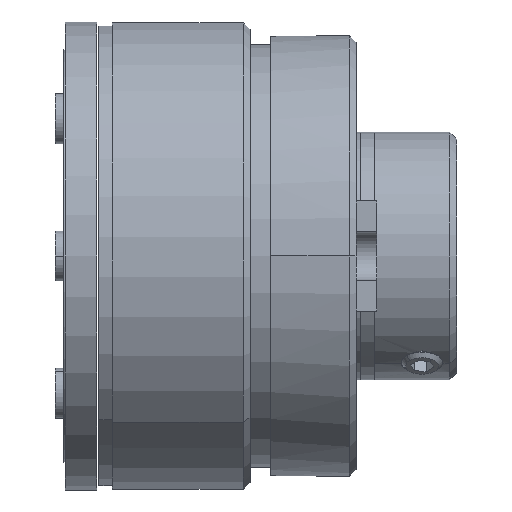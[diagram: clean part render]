
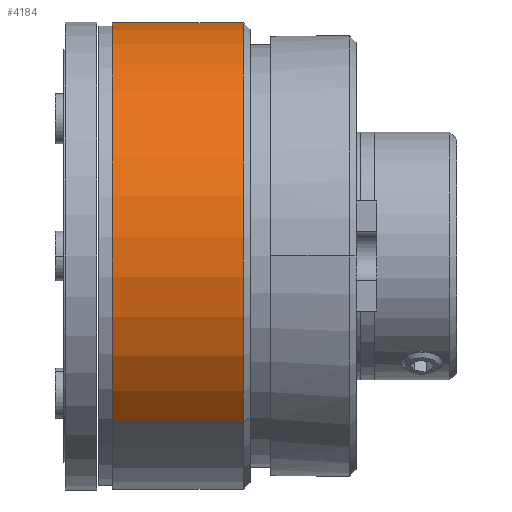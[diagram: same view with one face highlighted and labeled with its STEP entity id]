
A CAD part, front view. The second image highlights one B-rep face of the part: STEP entity #4184.
In plain terms, the highlighted cylindrical face has radius 17 mm (diameter 34 mm), a partial arc.
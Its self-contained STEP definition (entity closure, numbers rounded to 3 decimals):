
#4143=CARTESIAN_POINT('',(-5.,0.0,0.0));
#4144=DIRECTION('',(1.0,0.0,0.0));
#4145=DIRECTION('',(0.0,1.0,0.0));
#4146=AXIS2_PLACEMENT_3D('',#4143,#4144,#4145);
#4147=CYLINDRICAL_SURFACE('',#4146,17.0);
#4148=CARTESIAN_POINT('',(-10.,17.0,0.0));
#4149=VERTEX_POINT('',#4148);
#4150=CARTESIAN_POINT('',(-0.5,17.0,0.));
#4151=VERTEX_POINT('',#4150);
#4152=CARTESIAN_POINT('',(-10.,17.0,0.0));
#4153=DIRECTION('',(1.0,0.0,0.0));
#4154=VECTOR('',#4153,9.5);
#4155=LINE('',#4152,#4154);
#4156=EDGE_CURVE('',#4149,#4151,#4155,.T.);
#4157=ORIENTED_EDGE('',*,*,#4156,.F.);
#4158=CARTESIAN_POINT('',(-10.,-17.0,0.));
#4159=VERTEX_POINT('',#4158);
#4160=CARTESIAN_POINT('',(-10.,0.0,0.0));
#4161=DIRECTION('',(1.0,0.0,0.0));
#4162=DIRECTION('',(0.0,1.0,0.0));
#4163=AXIS2_PLACEMENT_3D('',#4160,#4161,#4162);
#4164=CIRCLE('',#4163,17.0);
#4165=EDGE_CURVE('',#4149,#4159,#4164,.T.);
#4166=ORIENTED_EDGE('',*,*,#4165,.T.);
#4167=CARTESIAN_POINT('',(-0.5,-17.0,0.));
#4168=VERTEX_POINT('',#4167);
#4169=CARTESIAN_POINT('',(-0.5,-17.0,0.));
#4170=DIRECTION('',(-1.0,0.0,0.0));
#4171=VECTOR('',#4170,9.5);
#4172=LINE('',#4169,#4171);
#4173=EDGE_CURVE('',#4168,#4159,#4172,.T.);
#4174=ORIENTED_EDGE('',*,*,#4173,.F.);
#4175=CARTESIAN_POINT('',(-0.5,0.0,0.0));
#4176=DIRECTION('',(1.0,0.0,0.0));
#4177=DIRECTION('',(0.0,-1.0,0.0));
#4178=AXIS2_PLACEMENT_3D('',#4175,#4176,#4177);
#4179=CIRCLE('',#4178,17.0);
#4180=EDGE_CURVE('',#4151,#4168,#4179,.T.);
#4181=ORIENTED_EDGE('',*,*,#4180,.F.);
#4182=EDGE_LOOP('',(#4157,#4166,#4174,#4181));
#4183=FACE_OUTER_BOUND('',#4182,.T.);
#4184=ADVANCED_FACE('',(#4183),#4147,.T.);
